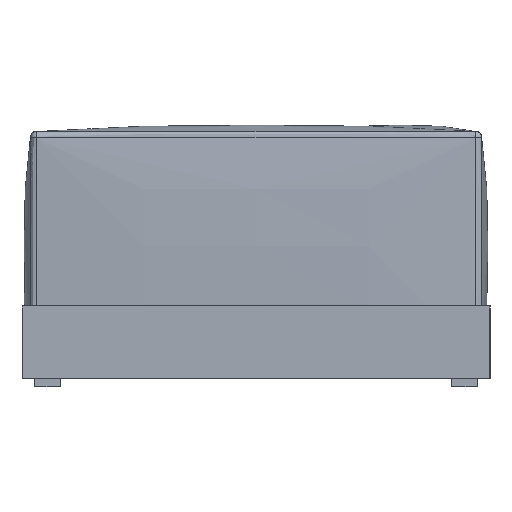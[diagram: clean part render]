
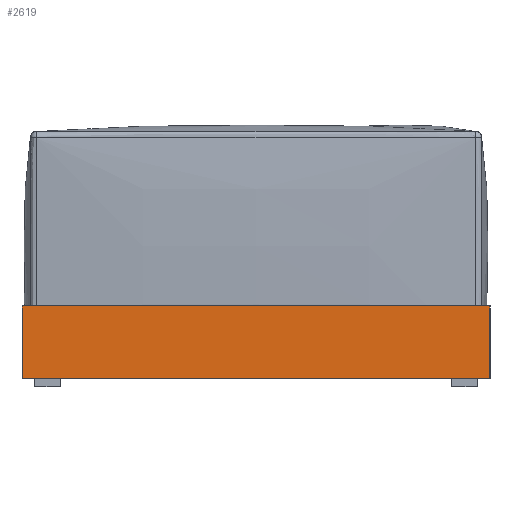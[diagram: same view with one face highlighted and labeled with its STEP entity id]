
A CAD part, left-side view. The second image highlights one B-rep face of the part: STEP entity #2619.
In plain terms, the highlighted planar face has unit normal (-1, 0, 0).
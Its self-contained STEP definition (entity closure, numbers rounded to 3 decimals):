
#354=FACE_OUTER_BOUND('',#554,.T.);
#554=EDGE_LOOP('',(#1786,#1787,#1788,#1789));
#766=LINE('',#3782,#960);
#767=LINE('',#3784,#961);
#768=LINE('',#3786,#962);
#769=LINE('',#3787,#963);
#960=VECTOR('',#3122,10.);
#961=VECTOR('',#3123,10.);
#962=VECTOR('',#3124,10.);
#963=VECTOR('',#3125,10.);
#1146=VERTEX_POINT('',#3780);
#1147=VERTEX_POINT('',#3781);
#1148=VERTEX_POINT('',#3783);
#1149=VERTEX_POINT('',#3785);
#1378=EDGE_CURVE('',#1146,#1147,#766,.T.);
#1379=EDGE_CURVE('',#1146,#1148,#767,.T.);
#1380=EDGE_CURVE('',#1149,#1148,#768,.T.);
#1381=EDGE_CURVE('',#1147,#1149,#769,.T.);
#1786=ORIENTED_EDGE('',*,*,#1378,.F.);
#1787=ORIENTED_EDGE('',*,*,#1379,.T.);
#1788=ORIENTED_EDGE('',*,*,#1380,.F.);
#1789=ORIENTED_EDGE('',*,*,#1381,.F.);
#2518=PLANE('',#2852);
#2619=ADVANCED_FACE('',(#354),#2518,.T.);
#2852=AXIS2_PLACEMENT_3D('',#3779,#3120,#3121);
#3120=DIRECTION('center_axis',(-1.,0.,0.));
#3121=DIRECTION('ref_axis',(0.,-1.,0.));
#3122=DIRECTION('',(0.,1.,0.));
#3123=DIRECTION('',(0.,0.,1.));
#3124=DIRECTION('',(0.,-1.,0.));
#3125=DIRECTION('',(0.,0.,1.));
#3779=CARTESIAN_POINT('Origin',(-900.,550.,0.));
#3780=CARTESIAN_POINT('',(-900.,-550.,0.));
#3781=CARTESIAN_POINT('',(-900.,550.,0.));
#3782=CARTESIAN_POINT('',(-900.,-550.,0.));
#3783=CARTESIAN_POINT('',(-900.,-550.,170.));
#3784=CARTESIAN_POINT('',(-900.,-550.,0.));
#3785=CARTESIAN_POINT('',(-900.,550.,170.));
#3786=CARTESIAN_POINT('',(-900.,-550.,170.));
#3787=CARTESIAN_POINT('',(-900.,550.,0.));
